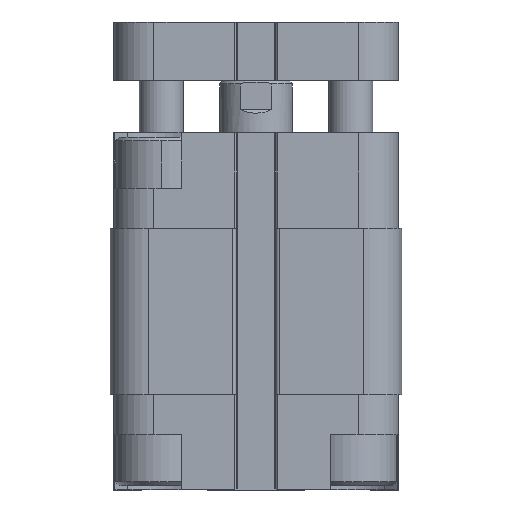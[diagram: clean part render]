
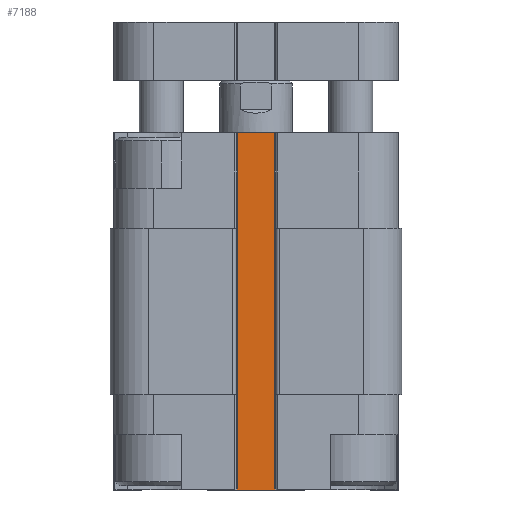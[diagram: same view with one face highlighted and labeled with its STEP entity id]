
A CAD part, front view. The second image highlights one B-rep face of the part: STEP entity #7188.
In plain terms, the highlighted planar face has unit normal (0, -1, 0).
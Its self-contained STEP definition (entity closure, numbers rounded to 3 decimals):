
#179 = EDGE_CURVE ( 'NONE', #592, #6279, #8904, .T. ) ;
#180 = EDGE_CURVE ( 'NONE', #592, #588, #8905, .T. ) ;
#181 = EDGE_CURVE ( 'NONE', #520, #588, #8902, .T. ) ;
#520 = VERTEX_POINT ( 'NONE', #3295 ) ;
#588 = VERTEX_POINT ( 'NONE', #8397 ) ;
#592 = VERTEX_POINT ( 'NONE', #8401 ) ;
#3075 = DIRECTION ( 'NONE',  ( 0., 0., -1. ) ) ;
#3078 = CARTESIAN_POINT ( 'NONE',  ( 2.6, -15.7, 11.4 ) ) ;
#3079 = CARTESIAN_POINT ( 'NONE',  ( -2.6, -15.7, 11.4 ) ) ;
#3083 = CARTESIAN_POINT ( 'NONE',  ( 0., -15.7, 35.9 ) ) ;
#3085 = DIRECTION ( 'NONE',  ( -1., 0., 0. ) ) ;
#3086 = DIRECTION ( 'NONE',  ( 0., 0., 1. ) ) ;
#3295 = CARTESIAN_POINT ( 'NONE',  ( -2.6, -15.7, -13.1 ) ) ;
#4019 = EDGE_CURVE ( 'NONE', #6279, #520, #4512, .T. ) ;
#4512 = LINE ( 'NONE', #7925, #4514 ) ;
#4514 = VECTOR ( 'NONE', #7926, 1000. ) ;
#5269 = EDGE_LOOP ( 'NONE', ( #6675, #6676, #6677, #6678 ) ) ;
#5807 = FACE_OUTER_BOUND ( 'NONE', #5269, .T. ) ;
#6180 = AXIS2_PLACEMENT_3D ( 'NONE', #10957, #10965, #10966 ) ;
#6279 = VERTEX_POINT ( 'NONE', #8212 ) ;
#6675 = ORIENTED_EDGE ( 'NONE', *, *, #4019, .F. ) ;
#6676 = ORIENTED_EDGE ( 'NONE', *, *, #179, .F. ) ;
#6677 = ORIENTED_EDGE ( 'NONE', *, *, #180, .T. ) ;
#6678 = ORIENTED_EDGE ( 'NONE', *, *, #181, .F. ) ;
#7188 = ADVANCED_FACE ( 'NONE', ( #5807 ), #10962, .F. ) ;
#7925 = CARTESIAN_POINT ( 'NONE',  ( 0., -15.7, -13.1 ) ) ;
#7926 = DIRECTION ( 'NONE',  ( -1., 0., 0. ) ) ;
#8212 = CARTESIAN_POINT ( 'NONE',  ( 2.6, -15.7, -13.1 ) ) ;
#8397 = CARTESIAN_POINT ( 'NONE',  ( -2.6, -15.7, 35.9 ) ) ;
#8401 = CARTESIAN_POINT ( 'NONE',  ( 2.6, -15.7, 35.9 ) ) ;
#8902 = LINE ( 'NONE', #3079, #8910 ) ;
#8904 = LINE ( 'NONE', #3078, #8906 ) ;
#8905 = LINE ( 'NONE', #3083, #8908 ) ;
#8906 = VECTOR ( 'NONE', #3075, 1000. ) ;
#8908 = VECTOR ( 'NONE', #3085, 1000. ) ;
#8910 = VECTOR ( 'NONE', #3086, 1000. ) ;
#10957 = CARTESIAN_POINT ( 'NONE',  ( -2.6, -15.7, 35.9 ) ) ;
#10962 = PLANE ( 'NONE',  #6180 ) ;
#10965 = DIRECTION ( 'NONE',  ( 0., 1., 0. ) ) ;
#10966 = DIRECTION ( 'NONE',  ( 1., 0., 0. ) ) ;
